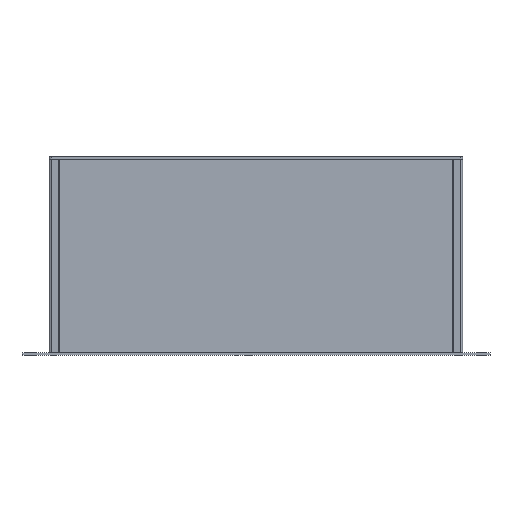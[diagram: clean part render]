
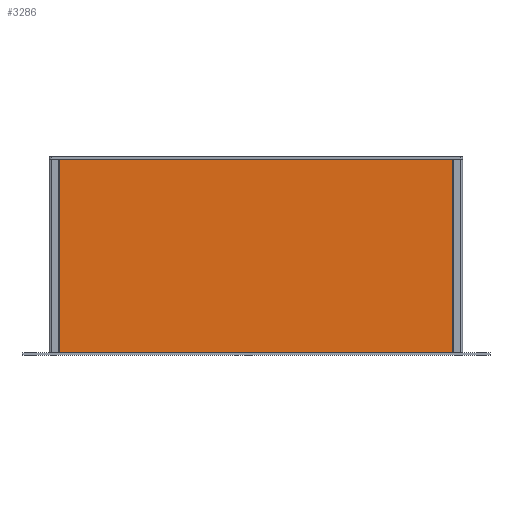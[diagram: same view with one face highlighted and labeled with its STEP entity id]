
A CAD part, top view. The second image highlights one B-rep face of the part: STEP entity #3286.
In plain terms, the highlighted planar face has unit normal (0, 0, 1).
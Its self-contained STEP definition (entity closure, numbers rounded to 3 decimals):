
#230=PLANE('',#3643);
#398=FACE_OUTER_BOUND('',#594,.T.);
#594=EDGE_LOOP('',(#3043,#3044,#3045,#3046));
#910=LINE('',#5476,#1254);
#917=LINE('',#5491,#1261);
#918=LINE('',#5493,#1262);
#919=LINE('',#5494,#1263);
#1254=VECTOR('',#4521,10.);
#1261=VECTOR('',#4534,10.);
#1262=VECTOR('',#4535,10.);
#1263=VECTOR('',#4536,10.);
#1698=VERTEX_POINT('',#5470);
#1700=VERTEX_POINT('',#5474);
#1705=VERTEX_POINT('',#5490);
#1706=VERTEX_POINT('',#5492);
#2150=EDGE_CURVE('',#1698,#1700,#910,.T.);
#2157=EDGE_CURVE('',#1705,#1698,#917,.T.);
#2158=EDGE_CURVE('',#1706,#1700,#918,.T.);
#2159=EDGE_CURVE('',#1705,#1706,#919,.T.);
#3043=ORIENTED_EDGE('',*,*,#2157,.T.);
#3044=ORIENTED_EDGE('',*,*,#2150,.T.);
#3045=ORIENTED_EDGE('',*,*,#2158,.F.);
#3046=ORIENTED_EDGE('',*,*,#2159,.F.);
#3286=ADVANCED_FACE('',(#398),#230,.T.);
#3643=AXIS2_PLACEMENT_3D('',#5489,#4532,#4533);
#4521=DIRECTION('',(0.,1.,0.));
#4532=DIRECTION('center_axis',(0.,0.,1.));
#4533=DIRECTION('ref_axis',(1.,0.,0.));
#4534=DIRECTION('',(1.,0.,0.));
#4535=DIRECTION('',(1.,0.,0.));
#4536=DIRECTION('',(0.,1.,0.));
#5470=CARTESIAN_POINT('',(444.6,0.,-19.3));
#5474=CARTESIAN_POINT('',(444.6,200.,-19.3));
#5476=CARTESIAN_POINT('',(444.6,0.,-19.3));
#5489=CARTESIAN_POINT('Origin',(38.4,0.,-19.3));
#5490=CARTESIAN_POINT('',(38.4,0.,-19.3));
#5491=CARTESIAN_POINT('',(38.4,0.,-19.3));
#5492=CARTESIAN_POINT('',(38.4,200.,-19.3));
#5493=CARTESIAN_POINT('',(38.4,200.,-19.3));
#5494=CARTESIAN_POINT('',(38.4,0.,-19.3));
